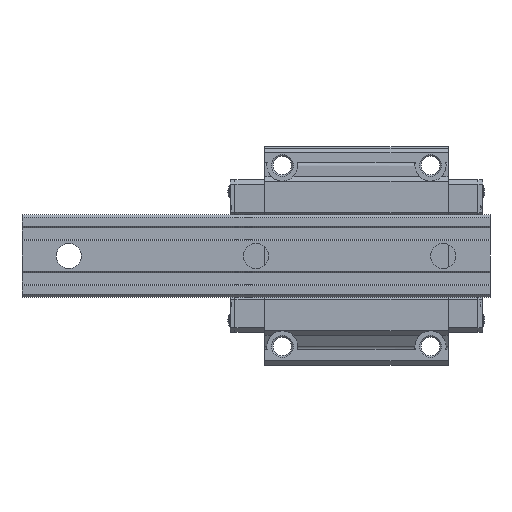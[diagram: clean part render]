
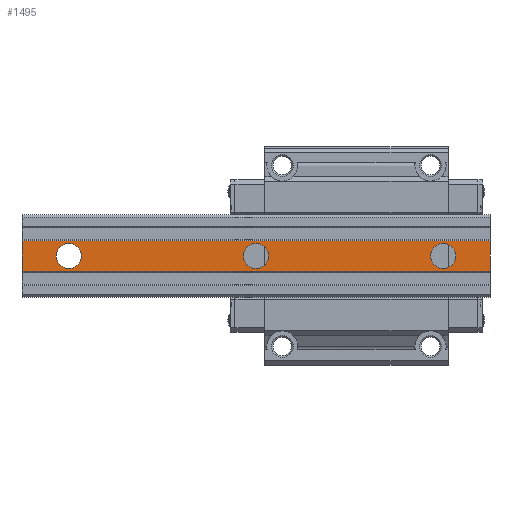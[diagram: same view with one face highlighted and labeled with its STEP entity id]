
A CAD part, front view. The second image highlights one B-rep face of the part: STEP entity #1495.
In plain terms, the highlighted planar face has unit normal (0, -1, 0).
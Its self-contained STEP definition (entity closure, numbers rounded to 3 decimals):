
#1495 = ADVANCED_FACE( '', ( #3028, #3029, #3030, #3031 ), #3032, .F. );
#3028 = FACE_BOUND( '', #4651, .T. );
#3029 = FACE_BOUND( '', #4652, .T. );
#3030 = FACE_BOUND( '', #4653, .T. );
#3031 = FACE_OUTER_BOUND( '', #4654, .T. );
#3032 = PLANE( '', #4655 );
#4651 = EDGE_LOOP( '', ( #8585 ) );
#4652 = EDGE_LOOP( '', ( #8586 ) );
#4653 = EDGE_LOOP( '', ( #8587 ) );
#4654 = EDGE_LOOP( '', ( #8588, #8589, #8590, #8591 ) );
#4655 = AXIS2_PLACEMENT_3D( '', #8592, #8593, #8594 );
#8585 = ORIENTED_EDGE( '', *, *, #10649, .F. );
#8586 = ORIENTED_EDGE( '', *, *, #10352, .F. );
#8587 = ORIENTED_EDGE( '', *, *, #10148, .F. );
#8588 = ORIENTED_EDGE( '', *, *, #10048, .F. );
#8589 = ORIENTED_EDGE( '', *, *, #9963, .F. );
#8590 = ORIENTED_EDGE( '', *, *, #11047, .T. );
#8591 = ORIENTED_EDGE( '', *, *, #9835, .T. );
#8592 = CARTESIAN_POINT( '', ( 150., 0., 24.5 ) );
#8593 = DIRECTION( '', ( 0., 1., 0. ) );
#8594 = DIRECTION( '', ( 0., 0., 1. ) );
#9835 = EDGE_CURVE( '', #11885, #11883, #11886, .T. );
#9963 = EDGE_CURVE( '', #12105, #12107, #12108, .T. );
#10048 = EDGE_CURVE( '', #12107, #11883, #12242, .T. );
#10148 = EDGE_CURVE( '', #12403, #12403, #12404, .T. );
#10352 = EDGE_CURVE( '', #12709, #12709, #12710, .T. );
#10649 = EDGE_CURVE( '', #13135, #13135, #13136, .T. );
#11047 = EDGE_CURVE( '', #12105, #11885, #13636, .T. );
#11883 = VERTEX_POINT( '', #14831 );
#11885 = VERTEX_POINT( '', #14834 );
#11886 = LINE( '', #14835, #14836 );
#12105 = VERTEX_POINT( '', #15189 );
#12107 = VERTEX_POINT( '', #15192 );
#12108 = LINE( '', #15193, #15194 );
#12242 = LINE( '', #15386, #15387 );
#12403 = VERTEX_POINT( '', #15624 );
#12404 = CIRCLE( '', #15625, 8. );
#12709 = VERTEX_POINT( '', #16084 );
#12710 = CIRCLE( '', #16085, 8. );
#13135 = VERTEX_POINT( '', #16708 );
#13136 = CIRCLE( '', #16709, 8. );
#13636 = LINE( '', #17460, #17461 );
#14831 = CARTESIAN_POINT( '', ( -150., 0., -9.75 ) );
#14834 = CARTESIAN_POINT( '', ( -150., 0., 9.75 ) );
#14835 = CARTESIAN_POINT( '', ( -150., 0., 24.5 ) );
#14836 = VECTOR( '', #18072, 1000. );
#15189 = CARTESIAN_POINT( '', ( 150., 0., 9.75 ) );
#15192 = CARTESIAN_POINT( '', ( 150., 0., -9.75 ) );
#15193 = CARTESIAN_POINT( '', ( 150., 0., 24.5 ) );
#15194 = VECTOR( '', #18220, 1000. );
#15386 = CARTESIAN_POINT( '', ( 150., 0., -9.75 ) );
#15387 = VECTOR( '', #18306, 1000. );
#15624 = CARTESIAN_POINT( '', ( -120., 0., -8. ) );
#15625 = AXIS2_PLACEMENT_3D( '', #18410, #18411, #18412 );
#16084 = CARTESIAN_POINT( '', ( 120., 0., -8. ) );
#16085 = AXIS2_PLACEMENT_3D( '', #18605, #18606, #18607 );
#16708 = CARTESIAN_POINT( '', ( 0., 0., -8. ) );
#16709 = AXIS2_PLACEMENT_3D( '', #18890, #18891, #18892 );
#17460 = CARTESIAN_POINT( '', ( 150., 0., 9.75 ) );
#17461 = VECTOR( '', #19233, 1000. );
#18072 = DIRECTION( '', ( 0., 0., -1. ) );
#18220 = DIRECTION( '', ( 0., 0., -1. ) );
#18306 = DIRECTION( '', ( -1., 0., 0. ) );
#18410 = CARTESIAN_POINT( '', ( -120., 0., 0. ) );
#18411 = DIRECTION( '', ( 0., -1., 0. ) );
#18412 = DIRECTION( '', ( 0., 0., -1. ) );
#18605 = CARTESIAN_POINT( '', ( 120., 0., 0. ) );
#18606 = DIRECTION( '', ( 0., -1., 0. ) );
#18607 = DIRECTION( '', ( 0., 0., -1. ) );
#18890 = CARTESIAN_POINT( '', ( 0., 0., 0. ) );
#18891 = DIRECTION( '', ( 0., -1., 0. ) );
#18892 = DIRECTION( '', ( 0., 0., -1. ) );
#19233 = DIRECTION( '', ( -1., 0., 0. ) );
